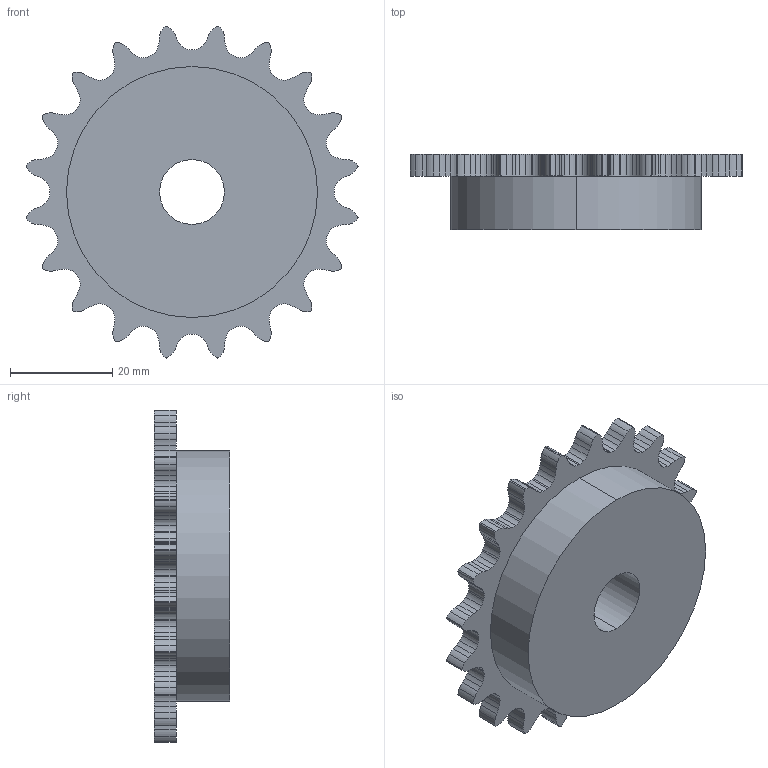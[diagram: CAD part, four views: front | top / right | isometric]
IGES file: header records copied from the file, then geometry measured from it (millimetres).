
Global section: file name: C:\Documents and Settings\Administrator\Desktop\Transfer Temp\rcss-3820.igs; native system: AutoDesk Inventor R2.0 ; preprocessor: AutoDesk Inventor Iges Exporter R2.0; author: No Author specified; organization: No Organization specified; date: 20011229.131328; units: inch
Bounding box: 65.09 x 14.72 x 65.09 mm (x, y, z)
Surface area: 8806.1 mm2 (no closed solid volume)
Topology: 0 solids, 0 shells, 287 faces, 1704 edges, 1704 vertices
Faces by surface type: revolution 244, bspline 43
